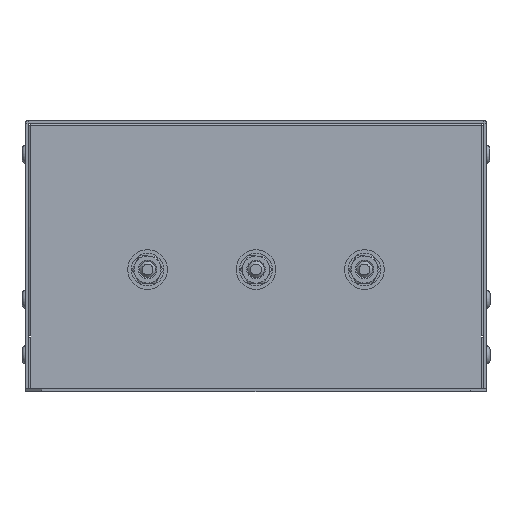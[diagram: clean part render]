
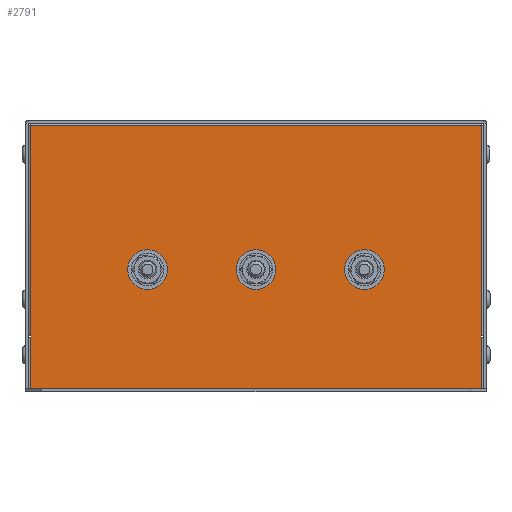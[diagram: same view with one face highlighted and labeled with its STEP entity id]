
A CAD part, left-side view. The second image highlights one B-rep face of the part: STEP entity #2791.
In plain terms, the highlighted planar face has unit normal (-1, 0, 0) as drawn and (1, 0, 0) by its records, which use the part's own axes.
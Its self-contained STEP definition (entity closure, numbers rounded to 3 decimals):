
#2791=ADVANCED_FACE('',(#4259,#4261,#4263,#4265),#4267,.T.);
#4259=FACE_BOUND('',#4260,.T.);
#4260=EDGE_LOOP('',(#6124,#6125,#6126,#6127,#6128,#6129,#6130,#6131));
#4261=FACE_BOUND('',#4262,.T.);
#4262=EDGE_LOOP('',(#6132));
#4263=FACE_BOUND('',#4264,.T.);
#4264=EDGE_LOOP('',(#6133));
#4265=FACE_BOUND('',#4266,.T.);
#4266=EDGE_LOOP('',(#6134));
#4267=PLANE('',#4268);
#4268=AXIS2_PLACEMENT_3D('',#4269,#4270,#4271);
#4269=CARTESIAN_POINT('',(1.,0.,0.));
#4270=DIRECTION('',(1.,0.,0.));
#4271=DIRECTION('',(0.,1.,0.));
#6124=ORIENTED_EDGE('',*,*,#6825,.T.);
#6125=ORIENTED_EDGE('',*,*,#6833,.T.);
#6126=ORIENTED_EDGE('',*,*,#6815,.T.);
#6127=ORIENTED_EDGE('',*,*,#6834,.T.);
#6128=ORIENTED_EDGE('',*,*,#6835,.T.);
#6129=ORIENTED_EDGE('',*,*,#6836,.T.);
#6130=ORIENTED_EDGE('',*,*,#6837,.T.);
#6131=ORIENTED_EDGE('',*,*,#6838,.T.);
#6132=ORIENTED_EDGE('',*,*,#6839,.T.);
#6133=ORIENTED_EDGE('',*,*,#6840,.T.);
#6134=ORIENTED_EDGE('',*,*,#6841,.T.);
#6815=EDGE_CURVE('',#7476,#7474,#7477,.T.);
#6825=EDGE_CURVE('',#7490,#7488,#7491,.T.);
#6833=EDGE_CURVE('',#7488,#7476,#7501,.T.);
#6834=EDGE_CURVE('',#7474,#7502,#7503,.F.);
#6835=EDGE_CURVE('',#7502,#7504,#7505,.T.);
#6836=EDGE_CURVE('',#7504,#7506,#7507,.T.);
#6837=EDGE_CURVE('',#7506,#7508,#7509,.T.);
#6838=EDGE_CURVE('',#7508,#7490,#7510,.F.);
#6839=EDGE_CURVE('',#7511,#7511,#7512,.F.);
#6840=EDGE_CURVE('',#7513,#7513,#7514,.F.);
#6841=EDGE_CURVE('',#7515,#7515,#7516,.F.);
#7474=VERTEX_POINT('',#8860);
#7476=VERTEX_POINT('',#8865);
#7477=LINE('',#8866,#8867);
#7488=VERTEX_POINT('',#8909);
#7490=VERTEX_POINT('',#8914);
#7491=LINE('',#8915,#8916);
#7501=LINE('',#8944,#8945);
#7502=VERTEX_POINT('',#8947);
#7503=LINE('',#8948,#8949);
#7504=VERTEX_POINT('',#8951);
#7505=LINE('',#8952,#8953);
#7506=VERTEX_POINT('',#8955);
#7507=LINE('',#8956,#8957);
#7508=VERTEX_POINT('',#8959);
#7509=LINE('',#8960,#8961);
#7510=LINE('',#8963,#8964);
#7511=VERTEX_POINT('',#8966);
#7512=CIRCLE('',#8967,4.);
#7513=VERTEX_POINT('',#8971);
#7514=CIRCLE('',#8972,4.);
#7515=VERTEX_POINT('',#8976);
#7516=CIRCLE('',#8977,4.);
#8860=CARTESIAN_POINT('',(1.,-83.,-29.5));
#8865=CARTESIAN_POINT('',(1.,-83.,48.));
#8866=CARTESIAN_POINT('',(1.,-83.,48.));
#8867=VECTOR('',#8868,1.);
#8868=DIRECTION('',(0.,0.,-1.));
#8909=CARTESIAN_POINT('',(1.,83.,48.));
#8914=CARTESIAN_POINT('',(1.,83.,-29.5));
#8915=CARTESIAN_POINT('',(1.,83.,-29.5));
#8916=VECTOR('',#8917,1.);
#8917=DIRECTION('',(0.,0.,1.));
#8944=CARTESIAN_POINT('',(1.,83.,48.));
#8945=VECTOR('',#8946,1.);
#8946=DIRECTION('',(0.,-1.,0.));
#8947=CARTESIAN_POINT('',(1.,-83.,-29.5));
#8948=CARTESIAN_POINT('',(1.,-83.,-29.5));
#8949=VECTOR('',#8950,1.);
#8950=DIRECTION('',(0.,1.,0.));
#8951=CARTESIAN_POINT('',(1.,-83.,-49.));
#8952=CARTESIAN_POINT('',(1.,-83.,-29.5));
#8953=VECTOR('',#8954,1.);
#8954=DIRECTION('',(0.,0.,-1.));
#8955=CARTESIAN_POINT('',(1.,83.,-49.));
#8956=CARTESIAN_POINT('',(1.,-83.,-49.));
#8957=VECTOR('',#8958,1.);
#8958=DIRECTION('',(0.,1.,0.));
#8959=CARTESIAN_POINT('',(1.,83.,-29.5));
#8960=CARTESIAN_POINT('',(1.,83.,-49.));
#8961=VECTOR('',#8962,1.);
#8962=DIRECTION('',(0.,0.,1.));
#8963=CARTESIAN_POINT('',(1.,83.,-29.5));
#8964=VECTOR('',#8965,1.);
#8965=DIRECTION('',(0.,1.,0.));
#8966=CARTESIAN_POINT('',(1.,-36.,-5.));
#8967=AXIS2_PLACEMENT_3D('',#8968,#8969,#8970);
#8968=CARTESIAN_POINT('',(1.,-40.,-5.));
#8969=DIRECTION('',(1.,0.,0.));
#8970=DIRECTION('',(0.,1.,0.));
#8971=CARTESIAN_POINT('',(1.,4.,-5.));
#8972=AXIS2_PLACEMENT_3D('',#8973,#8974,#8975);
#8973=CARTESIAN_POINT('',(1.,0.,-5.));
#8974=DIRECTION('',(1.,0.,0.));
#8975=DIRECTION('',(0.,1.,0.));
#8976=CARTESIAN_POINT('',(1.,44.,-5.));
#8977=AXIS2_PLACEMENT_3D('',#8978,#8979,#8980);
#8978=CARTESIAN_POINT('',(1.,40.,-5.));
#8979=DIRECTION('',(1.,0.,0.));
#8980=DIRECTION('',(0.,1.,0.));
